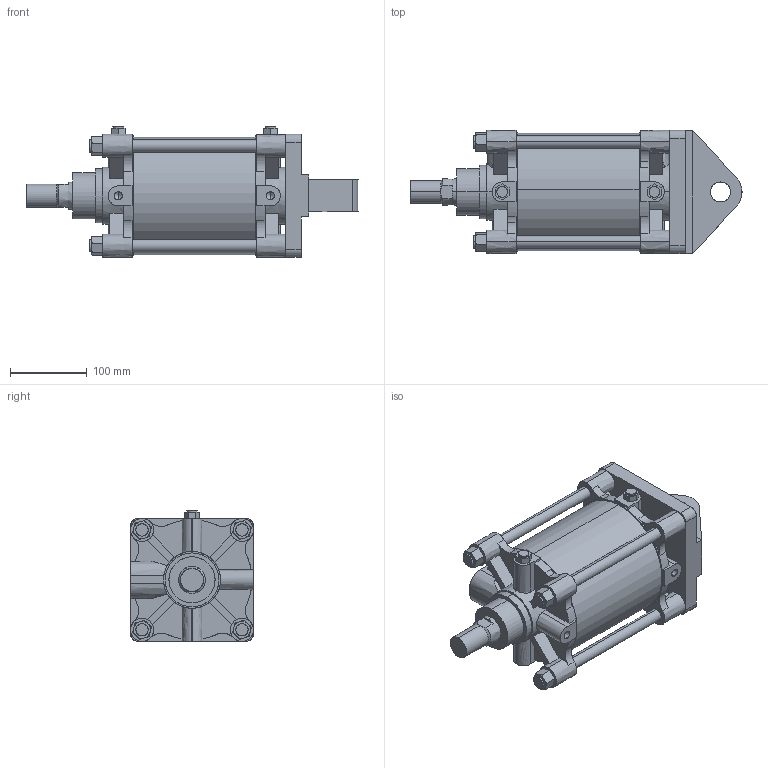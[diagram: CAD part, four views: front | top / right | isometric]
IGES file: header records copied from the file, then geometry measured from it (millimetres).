
Start section: SolidWorks IGES file using analytic representation for surfaces
Global section: file name: C:\Users\Toshiba\Desktop\A##2-140#-100-C.IGS; native system: SolidWorks 2014; preprocessor: SolidWorks 2014; author: Toshiba; date: 160331.145315; units: millimetre
Bounding box: 432 x 160 x 170 mm (x, y, z)
Surface area: 469402.4 mm2 (no closed solid volume)
Topology: 0 solids, 0 shells, 355 faces, 6658 edges, 6646 vertices
Faces by surface type: bspline 206, revolution 149
